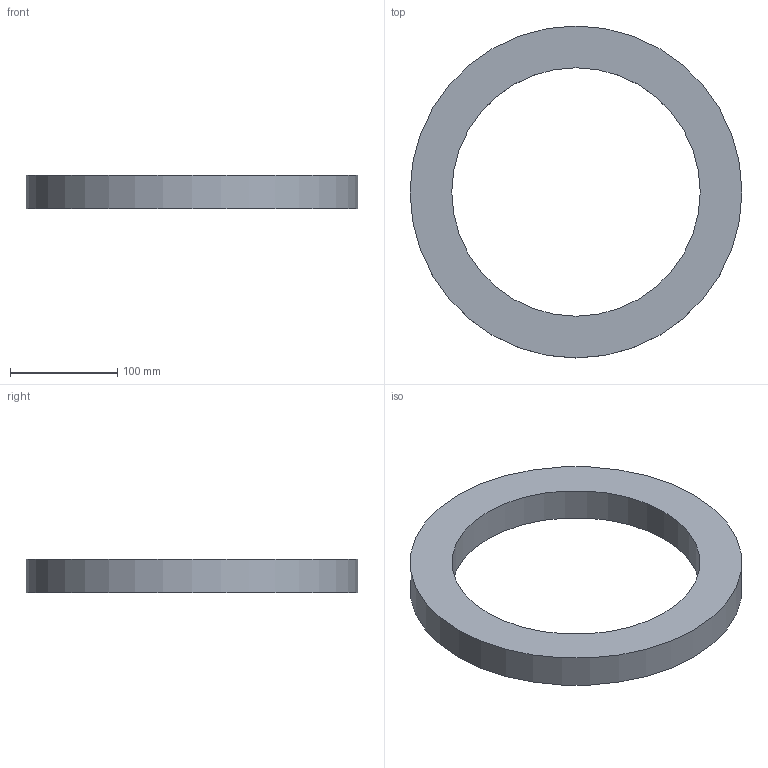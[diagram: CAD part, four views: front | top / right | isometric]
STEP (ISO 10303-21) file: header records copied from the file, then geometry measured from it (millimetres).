
FILE_DESCRIPTION(('Open CASCADE Model'),'2;1');
FILE_NAME('Open CASCADE Shape Model','2026-10-08T06:53:12',('Author'),( 'Open CASCADE'),'Open CASCADE STEP processor 7.8','Open CASCADE 7.8' ,'Unknown');
FILE_SCHEMA(('AUTOMOTIVE_DESIGN { 1 0 10303 214 1 1 1 1 }'));
Length unit declared in the file: millimetre
Products named in the file (1): Open CASCADE STEP translator 7.8 3
Bounding box: 310 x 310 x 31 mm (x, y, z)
Volume: 1029308.3 mm3; surface area: 119192 mm2
Topology: 1 solids, 1 shells, 4 faces, 6 edges, 4 vertices
Faces by surface type: cylinder 2, plane 2
Full cylindrical faces by diameter (mm): 232 x1, 310 x1
Entity records: 186 total; most frequent: DIRECTION 32, CARTESIAN_POINT 27, ORIENTED_EDGE 12, PCURVE 12, DEFINITIONAL_REPRESENTATION 12, LINE 10, VECTOR 10, AXIS2_PLACEMENT_3D 9
